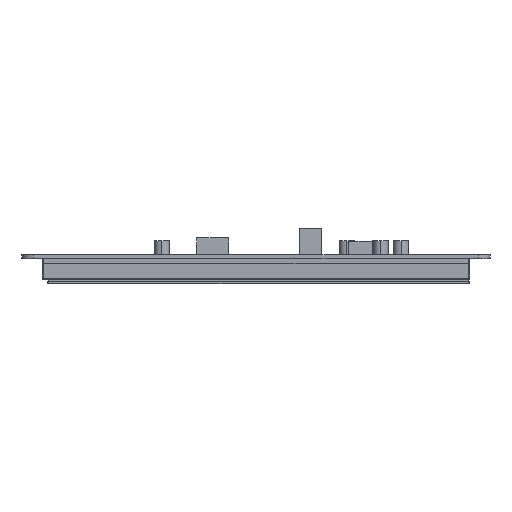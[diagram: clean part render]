
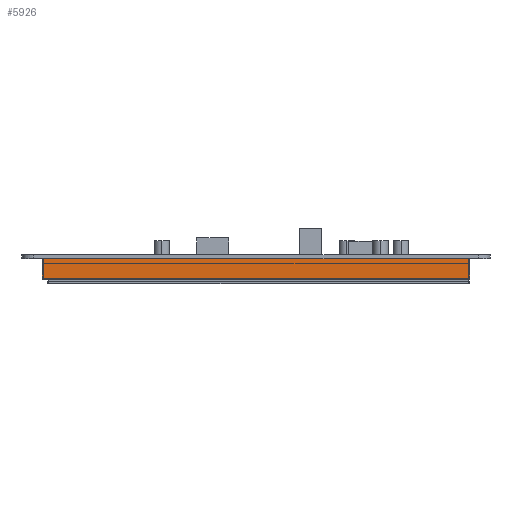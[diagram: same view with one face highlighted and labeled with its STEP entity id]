
A CAD part, front view. The second image highlights one B-rep face of the part: STEP entity #5926.
In plain terms, the highlighted planar face has unit normal (0, -1, 0).
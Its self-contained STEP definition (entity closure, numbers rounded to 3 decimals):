
#929=DIRECTION('',(1.,0.,0.));
#930=VECTOR('',#929,26.615);
#931=CARTESIAN_POINT('',(61.786,-114.889,-1.6));
#932=LINE('',#931,#930);
#945=DIRECTION('',(1.,0.,0.));
#946=VECTOR('',#945,50.8);
#947=CARTESIAN_POINT('',(5.906,-114.889,-1.6));
#948=LINE('',#947,#946);
#961=DIRECTION('',(1.,0.,0.));
#962=VECTOR('',#961,54.991);
#963=CARTESIAN_POINT('',(-56.706,-114.889,-1.6));
#964=LINE('',#963,#962);
#977=DIRECTION('',(1.,0.,0.));
#978=VECTOR('',#977,26.614);
#979=CARTESIAN_POINT('',(-88.4,-114.889,-1.6));
#980=LINE('',#979,#978);
#1433=DIRECTION('',(1.,0.,0.));
#1434=VECTOR('',#1433,5.08);
#1435=CARTESIAN_POINT('',(-61.786,-114.889,-1.6));
#1436=LINE('',#1435,#1434);
#1441=DIRECTION('',(1.,0.,0.));
#1442=VECTOR('',#1441,7.62);
#1443=CARTESIAN_POINT('',(-1.715,-114.889,-1.6));
#1444=LINE('',#1443,#1442);
#1449=DIRECTION('',(1.,0.,0.));
#1450=VECTOR('',#1449,5.08);
#1451=CARTESIAN_POINT('',(56.706,-114.889,-1.6));
#1452=LINE('',#1451,#1450);
#1653=DIRECTION('',(0.,0.,1.));
#1654=VECTOR('',#1653,8.5);
#1655=CARTESIAN_POINT('',(-88.4,-114.889,-10.1));
#1656=LINE('',#1655,#1654);
#1657=DIRECTION('',(0.,0.,1.));
#1658=VECTOR('',#1657,8.5);
#1659=CARTESIAN_POINT('',(88.401,-114.889,-10.1));
#1660=LINE('',#1659,#1658);
#1669=DIRECTION('',(1.,0.,0.));
#1670=VECTOR('',#1669,176.8);
#1671=CARTESIAN_POINT('',(-88.4,-114.889,-10.1));
#1672=LINE('',#1671,#1670);
#3237=CARTESIAN_POINT('',(-88.4,-114.889,-10.1));
#3238=VERTEX_POINT('',#3237);
#3239=CARTESIAN_POINT('',(88.401,-114.889,-10.1));
#3240=VERTEX_POINT('',#3239);
#3288=CARTESIAN_POINT('',(-88.4,-114.889,-1.6));
#3290=VERTEX_POINT('',#3288);
#3291=CARTESIAN_POINT('',(-61.786,-114.889,-1.6));
#3292=VERTEX_POINT('',#3291);
#3293=CARTESIAN_POINT('',(-56.706,-114.889,-1.6));
#3294=CARTESIAN_POINT('',(-1.715,-114.889,-1.6));
#3295=VERTEX_POINT('',#3293);
#3296=VERTEX_POINT('',#3294);
#3297=CARTESIAN_POINT('',(5.906,-114.889,-1.6));
#3298=CARTESIAN_POINT('',(56.706,-114.889,-1.6));
#3299=VERTEX_POINT('',#3297);
#3300=VERTEX_POINT('',#3298);
#3301=CARTESIAN_POINT('',(61.786,-114.889,-1.6));
#3302=CARTESIAN_POINT('',(88.401,-114.889,-1.6));
#3303=VERTEX_POINT('',#3301);
#3304=VERTEX_POINT('',#3302);
#5907=CARTESIAN_POINT('',(-88.4,-114.889,-10.1));
#5908=DIRECTION('',(0.,-1.,0.));
#5909=DIRECTION('',(1.,0.,0.));
#5910=AXIS2_PLACEMENT_3D('',#5907,#5908,#5909);
#5911=PLANE('',#5910);
#5912=ORIENTED_EDGE('',*,*,#4142,.T.);
#5913=ORIENTED_EDGE('',*,*,#5153,.T.);
#5914=ORIENTED_EDGE('',*,*,#4134,.T.);
#5915=ORIENTED_EDGE('',*,*,#5176,.T.);
#5916=ORIENTED_EDGE('',*,*,#4126,.T.);
#5917=ORIENTED_EDGE('',*,*,#5199,.T.);
#5918=ORIENTED_EDGE('',*,*,#4118,.T.);
#5920=ORIENTED_EDGE('',*,*,#5919,.F.);
#5922=ORIENTED_EDGE('',*,*,#5921,.F.);
#5923=ORIENTED_EDGE('',*,*,#5892,.T.);
#5924=EDGE_LOOP('',(#5912,#5913,#5914,#5915,#5916,#5917,#5918,#5920,#5922,
#5923));
#5925=FACE_OUTER_BOUND('',#5924,.F.);
#4118=EDGE_CURVE('',#3303,#3304,#932,.T.);
#4126=EDGE_CURVE('',#3299,#3300,#948,.T.);
#4134=EDGE_CURVE('',#3295,#3296,#964,.T.);
#4142=EDGE_CURVE('',#3290,#3292,#980,.T.);
#5153=EDGE_CURVE('',#3292,#3295,#1436,.T.);
#5176=EDGE_CURVE('',#3296,#3299,#1444,.T.);
#5199=EDGE_CURVE('',#3300,#3303,#1452,.T.);
#5892=EDGE_CURVE('',#3238,#3290,#1656,.T.);
#5919=EDGE_CURVE('',#3240,#3304,#1660,.T.);
#5921=EDGE_CURVE('',#3238,#3240,#1672,.T.);
#5926=ADVANCED_FACE('',(#5925),#5911,.T.);
